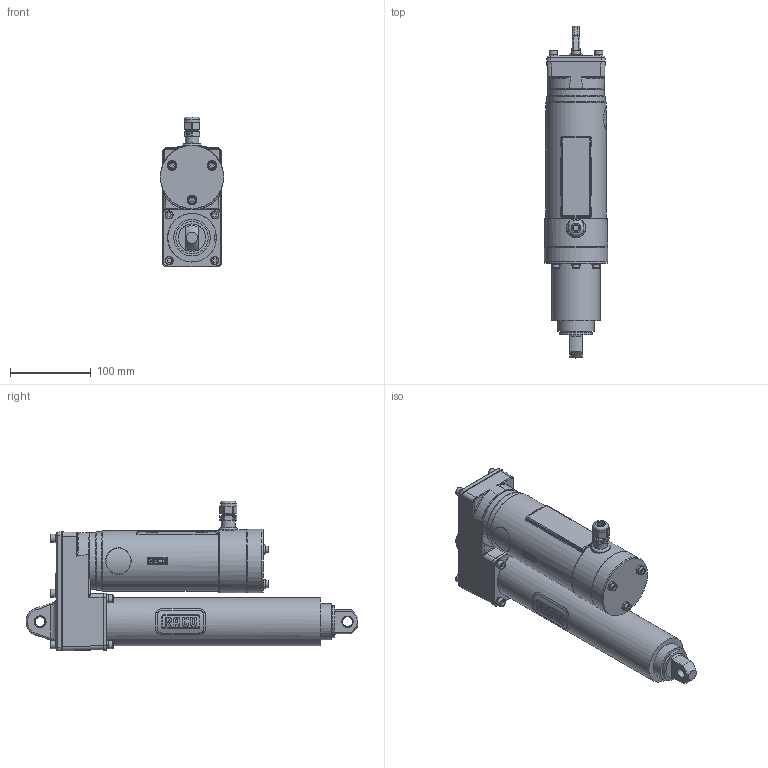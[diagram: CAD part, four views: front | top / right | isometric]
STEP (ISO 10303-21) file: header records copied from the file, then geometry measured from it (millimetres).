
FILE_DESCRIPTION( ( '153-599-4' ), '1' );
FILE_NAME( 'C:/daten/bearbeitung katalogbilder/RBs rendern/austausch pomplun/mit identnr/T6C4-0200-160-262-4.stp', 'Unknown', ( 'Christoph Hahmann' ), ( 'RACO-ELEKTRO-MASCHINEN GmbH' ), 'PSStep 17.0.49', 'Solid Edge ST 7', ' ' );
FILE_SCHEMA( ( 'AUTOMOTIVE_DESIGN { 1 0 10303 214 1 1 1 1 }' ) );
Length unit declared in the file: millimetre
Products named in the file (8): Assem1; 12.01-02-04 6; 02.14-04-0200 6; 01.15-04-0200 6; 01.01-04 6 150-123-2; 12.02-02-04 6 144-119-1; Abschlußdeckel kompl 108-623-5; Motor komplett
Assembly tree (7 placements, depth 2):
  Assem1
    12.01-02-04 6
    02.14-04-0200 6
    01.15-04-0200 6
    01.01-04 6 150-123-2
    12.02-02-04 6 144-119-1
    Abschlußdeckel kompl 108-623-5
    Motor komplett
Bounding box: 78.5 x 410.47 x 185.05 mm (x, y, z)
Surface area: 348078.4 mm2 (no closed solid volume)
Topology: 0 solids, 1790 shells, 1791 faces, 8122 edges, 7849 vertices
Faces by surface type: plane 616, cylinder 577, torus 232, bspline 197, cone 86, sphere 69, extrusion 14
Full cylindrical faces by diameter (mm): 4.134 x4, 4.773 x9, 4.917 x19, 5 x3, 5.5 x7, 6 x18, 6.5 x3, 7 x10, 8.5 x4, 8.7 x1, 9 x3, 10 x9, 11 x3, 12 x2, 12.4 x1, 13.4 x1, 13.5 x1, 13.86 x2, 14 x4, 14.394 x2, 15 x2, 15.2 x2, 16.509 x1, 17 x1, 17.281 x1, 18.256 x1, 19 x2, 25 x1, 28 x1, 32 x1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
Entity records: 130128 total; most frequent: CARTESIAN_POINT 55521, DIRECTION 13272, VERTEX_POINT 7739, ORIENTED_EDGE 7728, EDGE_CURVE 7728, AXIS2_PLACEMENT_3D 5179, CIRCLE 3296, VECTOR 2914
